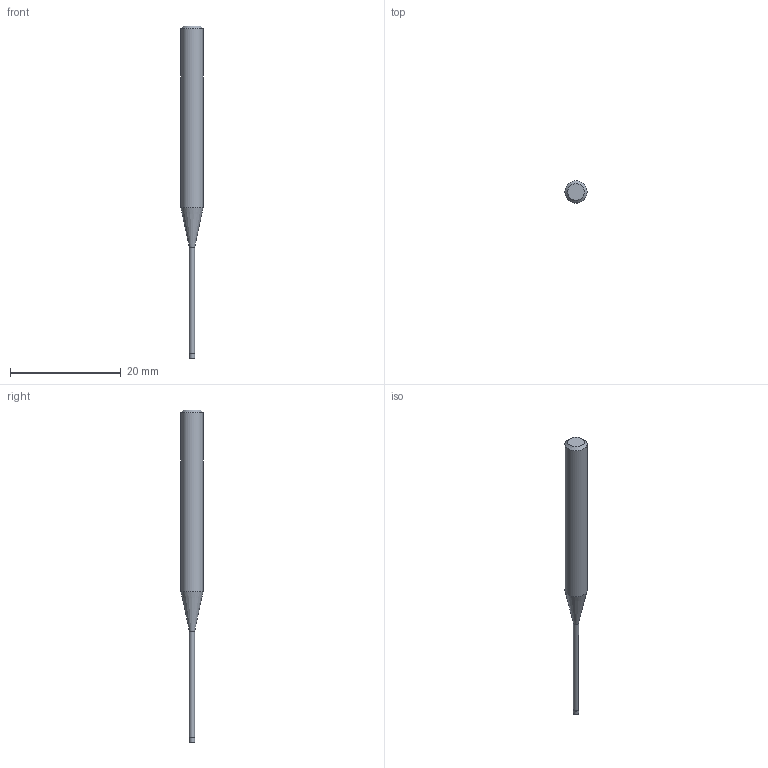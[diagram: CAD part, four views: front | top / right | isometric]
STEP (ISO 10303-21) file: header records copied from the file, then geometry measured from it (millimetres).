
FILE_DESCRIPTION((''),'2;1');
FILE_NAME('C:\Users\nsx150\AppData\Local\Temp\Mastercam 2021\RJ5U8K7RMU\TEMP.step','2021-04-21T16:41:13',(''),(''),'STEP Write','Mastercam 2021 ... CNC Software, Inc.','');
FILE_SCHEMA(('AUTOMOTIVE_DESIGN'));
Length unit declared in the file: millimetre
Products named in the file (1): None
Bounding box: 4 x 4 x 60 mm (x, y, z)
Volume: 464.2 mm3; surface area: 540.2 mm2
Topology: 2 solids, 2 shells, 9 faces, 12 edges, 7 vertices
Faces by surface type: plane 4, cylinder 3, cone 2
Full cylindrical faces by diameter (mm): 0.95 x1, 1 x1, 4 x1
Entity records: 211 total; most frequent: DIRECTION 36, CARTESIAN_POINT 25, AXIS2_PLACEMENT_3D 18, ORIENTED_EDGE 14, EDGE_LOOP 14, STYLED_ITEM 12, ADVANCED_FACE 9, FACE_BOUND 8
